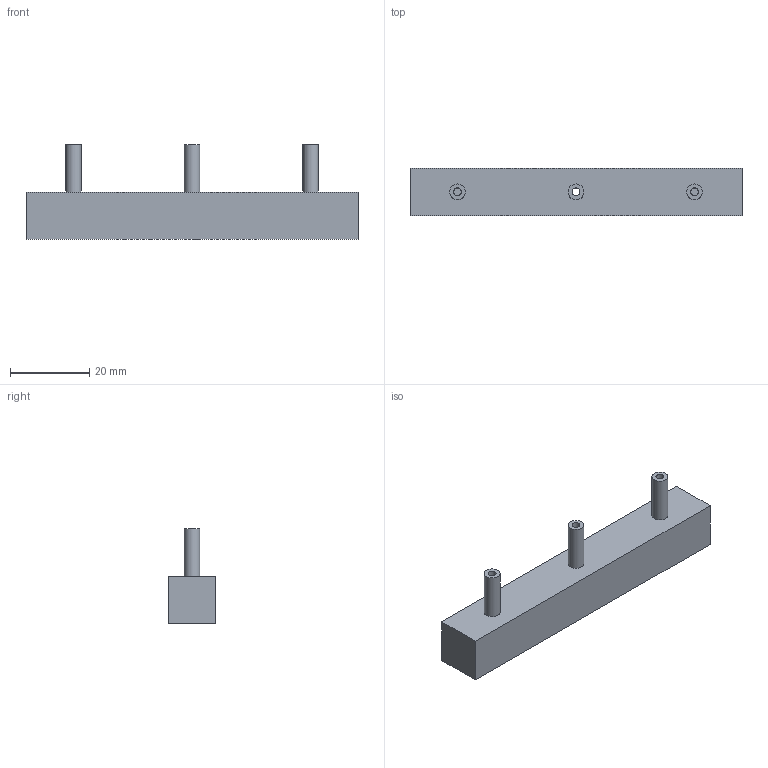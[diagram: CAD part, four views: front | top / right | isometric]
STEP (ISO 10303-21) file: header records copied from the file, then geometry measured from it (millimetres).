
FILE_DESCRIPTION(('Open CASCADE Model'),'2;1');
FILE_NAME('Open CASCADE Shape Model','2026-10-16T18:52:00',('Author'),( 'Open CASCADE'),'Open CASCADE STEP processor 7.8','Open CASCADE 7.8' ,'Unknown');
FILE_SCHEMA(('AUTOMOTIVE_DESIGN { 1 0 10303 214 1 1 1 1 }'));
Length unit declared in the file: millimetre
Products named in the file (1): Open CASCADE STEP translator 7.8 41
Bounding box: 84 x 12 x 24 mm (x, y, z)
Volume: 9561.3 mm3; surface area: 6992.8 mm2
Topology: 1 solids, 1 shells, 22 faces, 45 edges, 30 vertices
Faces by surface type: plane 15, cylinder 7
Full cylindrical faces by diameter (mm): 2 x3, 4 x4
Entity records: 1214 total; most frequent: CARTESIAN_POINT 236, DIRECTION 187, LINE 107, VECTOR 107, ORIENTED_EDGE 90, PCURVE 90, DEFINITIONAL_REPRESENTATION 90, EDGE_CURVE 45
